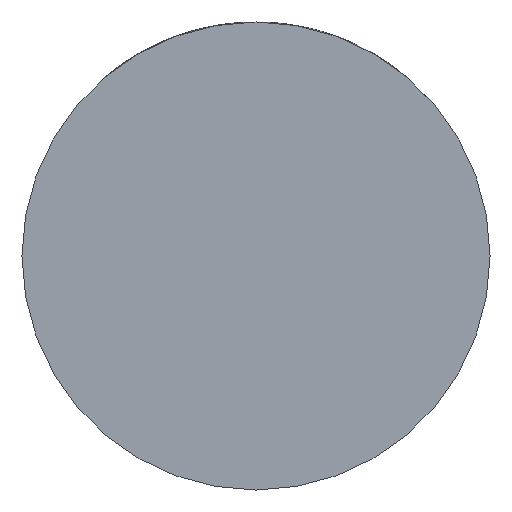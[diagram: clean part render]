
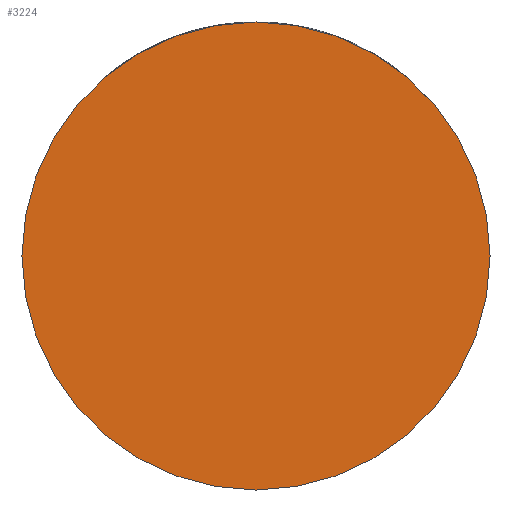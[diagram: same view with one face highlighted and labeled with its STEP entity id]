
A CAD part, front view. The second image highlights one B-rep face of the part: STEP entity #3224.
In plain terms, the highlighted planar face has unit normal (0, -1, 0).
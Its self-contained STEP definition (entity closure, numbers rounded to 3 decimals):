
#245 = CARTESIAN_POINT ( 'NONE',  ( 0., -33., 0. ) ) ;
#421 = EDGE_CURVE ( 'NONE', #1964, #1793, #2087, .T. ) ;
#517 = EDGE_LOOP ( 'NONE', ( #4206, #1309 ) ) ;
#838 = CARTESIAN_POINT ( 'NONE',  ( 29.5, -33., 0. ) ) ;
#1152 = AXIS2_PLACEMENT_3D ( 'NONE', #2967, #4402, #1922 ) ;
#1207 = PLANE ( 'NONE',  #3230 ) ;
#1309 = ORIENTED_EDGE ( 'NONE', *, *, #421, .T. ) ;
#1645 = DIRECTION ( 'NONE',  ( 0., -1., 0. ) ) ;
#1658 = DIRECTION ( 'NONE',  ( 1., 0., 0. ) ) ;
#1793 = VERTEX_POINT ( 'NONE', #2192 ) ;
#1922 = DIRECTION ( 'NONE',  ( 1., 0., 0. ) ) ;
#1964 = VERTEX_POINT ( 'NONE', #838 ) ;
#2087 = CIRCLE ( 'NONE', #2454, 29.5 ) ;
#2192 = CARTESIAN_POINT ( 'NONE',  ( -29.5, -33., 0. ) ) ;
#2255 = CARTESIAN_POINT ( 'NONE',  ( 0., -33., 0. ) ) ;
#2454 = AXIS2_PLACEMENT_3D ( 'NONE', #245, #1645, #2696 ) ;
#2696 = DIRECTION ( 'NONE',  ( 1., 0., 0. ) ) ;
#2967 = CARTESIAN_POINT ( 'NONE',  ( 0., -33., 0. ) ) ;
#3224 = ADVANCED_FACE ( 'NONE', ( #4340 ), #1207, .T. ) ;
#3230 = AXIS2_PLACEMENT_3D ( 'NONE', #2255, #4458, #1658 ) ;
#4189 = EDGE_CURVE ( 'NONE', #1793, #1964, #4368, .T. ) ;
#4206 = ORIENTED_EDGE ( 'NONE', *, *, #4189, .T. ) ;
#4340 = FACE_OUTER_BOUND ( 'NONE', #517, .T. ) ;
#4368 = CIRCLE ( 'NONE', #1152, 29.5 ) ;
#4402 = DIRECTION ( 'NONE',  ( 0., -1., 0. ) ) ;
#4458 = DIRECTION ( 'NONE',  ( 0., -1., 0. ) ) ;
